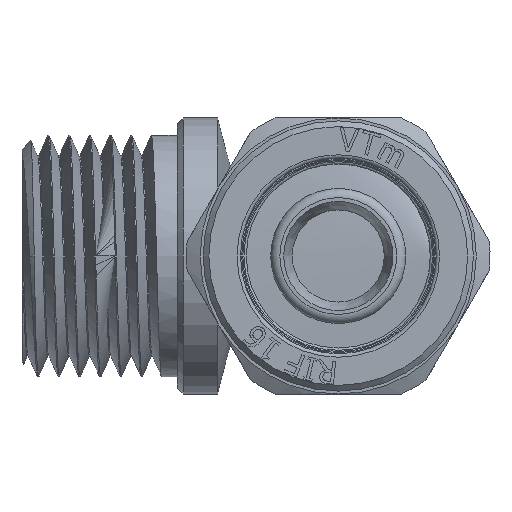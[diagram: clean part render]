
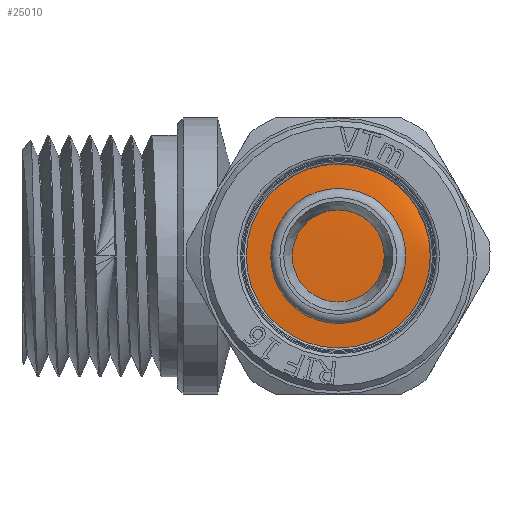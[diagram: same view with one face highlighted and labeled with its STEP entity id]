
A CAD part, left-side view. The second image highlights one B-rep face of the part: STEP entity #25010.
In plain terms, the highlighted cylindrical face has radius 8.7 mm (diameter 17.4 mm), a full revolution.
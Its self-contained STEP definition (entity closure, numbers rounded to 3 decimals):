
#2109=FACE_OUTER_BOUND('',#3542,.T.);
#3542=EDGE_LOOP('',(#16809,#16810,#16811));
#5093=B_SPLINE_CURVE_WITH_KNOTS('',3,(#32370,#32371,#32372,#32373,#32374,
#32375,#32376,#32377,#32378,#32379,#32380,#32381,#32382,#32383,#32384,#32385,
#32386),.UNSPECIFIED.,.F.,.F.,(4,1,1,1,1,1,1,1,1,1,1,1,1,1,4),(9.425,
9.837,10.318,10.8,11.282,11.764,
12.245,12.727,13.209,13.69,14.172,
14.654,15.135,15.617,15.708),
 .UNSPECIFIED.);
#6655=LINE('',#32367,#8380);
#6656=LINE('',#32369,#8381);
#8380=VECTOR('',#27847,8.7);
#8381=VECTOR('',#27848,8.7);
#10106=VERTEX_POINT('',#32365);
#10107=VERTEX_POINT('',#32366);
#10108=VERTEX_POINT('',#32368);
#12799=EDGE_CURVE('',#10106,#10107,#6655,.T.);
#12800=EDGE_CURVE('',#10108,#10106,#6656,.T.);
#12801=EDGE_CURVE('',#10108,#10107,#5093,.T.);
#16809=ORIENTED_EDGE('',*,*,#12799,.F.);
#16810=ORIENTED_EDGE('',*,*,#12800,.F.);
#16811=ORIENTED_EDGE('',*,*,#12801,.T.);
#24827=CYLINDRICAL_SURFACE('',#26466,8.7);
#25010=ADVANCED_FACE('',(#2109),#24827,.T.);
#26466=AXIS2_PLACEMENT_3D('',#32364,#27845,#27846);
#27845=DIRECTION('center_axis',(1.,0.,0.));
#27846=DIRECTION('ref_axis',(0.,1.,0.));
#27847=DIRECTION('',(1.,0.,0.));
#27848=DIRECTION('',(1.,0.,0.));
#32364=CARTESIAN_POINT('Origin',(-22.85,0.,0.));
#32365=CARTESIAN_POINT('',(-20.1,-8.7,0.));
#32366=CARTESIAN_POINT('',(-18.4,-8.7,0.));
#32367=CARTESIAN_POINT('',(-22.85,-8.7,0.));
#32368=CARTESIAN_POINT('',(-20.2,-8.7,0.));
#32369=CARTESIAN_POINT('',(-22.85,-8.7,0.));
#32370=CARTESIAN_POINT('Ctrl Pts',(-20.2,-8.7,0.));
#32371=CARTESIAN_POINT('Ctrl Pts',(-20.161,-8.699,
-1.194));
#32372=CARTESIAN_POINT('Ctrl Pts',(-20.075,-8.161,-3.786));
#32373=CARTESIAN_POINT('Ctrl Pts',(-19.944,-5.667,-7.048));
#32374=CARTESIAN_POINT('Ctrl Pts',(-19.806,-1.757,-8.871));
#32375=CARTESIAN_POINT('Ctrl Pts',(-19.668,2.553,-8.676));
#32376=CARTESIAN_POINT('Ctrl Pts',(-19.53,6.282,-6.505));
#32377=CARTESIAN_POINT('Ctrl Pts',(-19.392,8.581,-2.855));
#32378=CARTESIAN_POINT('Ctrl Pts',(-19.254,8.927,1.446));
#32379=CARTESIAN_POINT('Ctrl Pts',(-19.116,7.242,5.417));
#32380=CARTESIAN_POINT('Ctrl Pts',(-18.978,3.908,8.156));
#32381=CARTESIAN_POINT('Ctrl Pts',(-18.84,-0.316,9.038));
#32382=CARTESIAN_POINT('Ctrl Pts',(-18.702,-4.467,7.863));
#32383=CARTESIAN_POINT('Ctrl Pts',(-18.564,-7.602,4.899));
#32384=CARTESIAN_POINT('Ctrl Pts',(-18.463,-8.626,
1.923));
#32385=CARTESIAN_POINT('Ctrl Pts',(-18.409,-8.7,
0.263));
#32386=CARTESIAN_POINT('Ctrl Pts',(-18.4,-8.7,0.));
